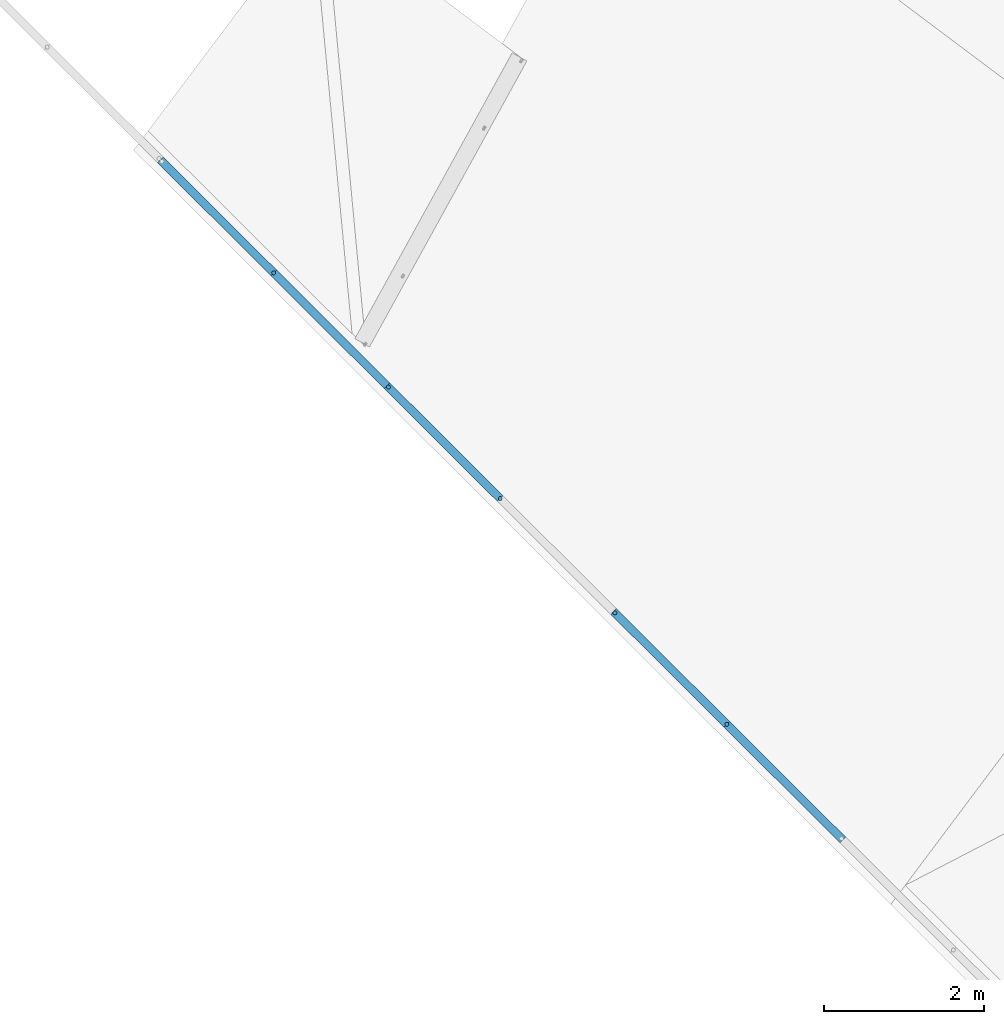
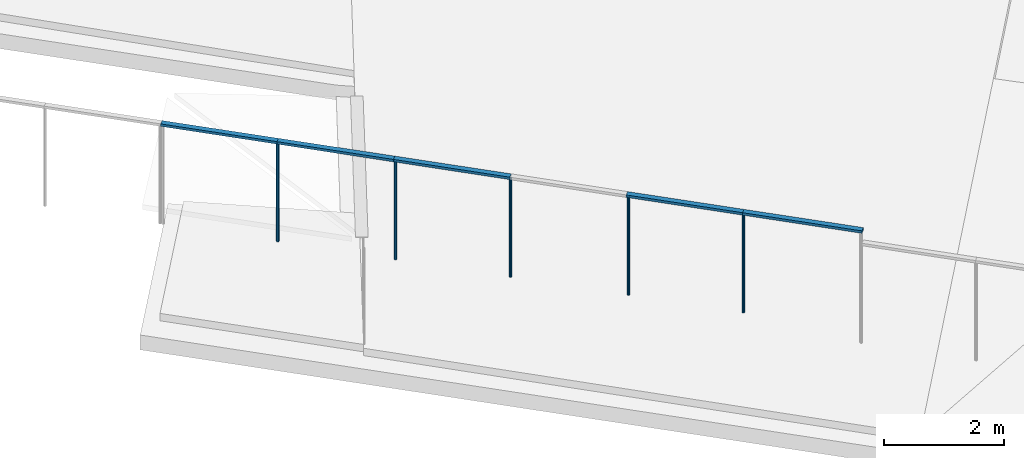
# One storey, part 7 of 33: 12 members, 3 elements without a shape of their own.
"""IFC2X3 building model written with IfcOpenShell, lengths in metres."""

from ifc_helpers import new_model, entity, si_unit, converted_unit, derived_unit, direction, frame, frame_2d, origin, origin_2d_with_axis, place, context, subcontext, project, spatial, rectangle, circle, extrude, source, transform, mapped, material, type_object, type_shapes, element, aggregate, save


model = new_model("IFC2X3")

# Units and contexts
model_context = context("Model", 3, precision=1e-05, world=origin(), true_north=direction((6.123031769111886e-17, 1.0)))
body_context = subcontext(model_context, "Body", "Model", "MODEL_VIEW")
ifc_project = project(units=[si_unit("LENGTHUNIT", "METRE"), si_unit("AREAUNIT", "SQUARE_METRE"), si_unit("VOLUMEUNIT", "CUBIC_METRE"), converted_unit("PLANEANGLEUNIT", "DEGREE", entity("IfcRatioMeasure", 0.017453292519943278), si_unit("PLANEANGLEUNIT", "RADIAN"), dimensions=[0, 0, 0, 0, 0, 0, 0]), si_unit("MASSUNIT", "GRAM", prefix="KILO"), derived_unit("MASSDENSITYUNIT", [(si_unit("MASSUNIT", "GRAM", prefix="KILO"), 1), (si_unit("LENGTHUNIT", "METRE"), -3)]), derived_unit("IONCONCENTRATIONUNIT", [(si_unit("MASSUNIT", "GRAM", prefix="KILO"), 1), (si_unit("LENGTHUNIT", "METRE"), -3)]), derived_unit("MOMENTOFINERTIAUNIT", [(si_unit("LENGTHUNIT", "METRE"), 4)]), si_unit("TIMEUNIT", "SECOND"), si_unit("FREQUENCYUNIT", "HERTZ"), si_unit("THERMODYNAMICTEMPERATUREUNIT", "DEGREE_CELSIUS"), derived_unit("THERMALTRANSMITTANCEUNIT", [(si_unit("MASSUNIT", "GRAM", prefix="KILO"), 1), (si_unit("THERMODYNAMICTEMPERATUREUNIT", "KELVIN"), -1), (si_unit("TIMEUNIT", "SECOND"), -3)]), derived_unit("THERMALCONDUCTANCEUNIT", [(si_unit("MASSUNIT", "GRAM", prefix="KILO"), 1), (si_unit("THERMODYNAMICTEMPERATUREUNIT", "KELVIN"), -1), (si_unit("TIMEUNIT", "SECOND"), -3), (si_unit("LENGTHUNIT", "METRE"), 1)]), derived_unit("VOLUMETRICFLOWRATEUNIT", [(si_unit("LENGTHUNIT", "METRE"), 3), (si_unit("TIMEUNIT", "SECOND"), -1)]), derived_unit("MASSFLOWRATEUNIT", [(si_unit("MASSUNIT", "GRAM", prefix="KILO"), 1), (si_unit("TIMEUNIT", "SECOND"), -1)]), derived_unit("ROTATIONALFREQUENCYUNIT", [(si_unit("TIMEUNIT", "SECOND"), -1)]), si_unit("ELECTRICCURRENTUNIT", "AMPERE"), si_unit("ELECTRICVOLTAGEUNIT", "VOLT"), si_unit("POWERUNIT", "WATT"), si_unit("FORCEUNIT", "NEWTON", prefix="KILO"), si_unit("ILLUMINANCEUNIT", "LUX"), si_unit("LUMINOUSFLUXUNIT", "LUMEN"), si_unit("LUMINOUSINTENSITYUNIT", "CANDELA"), derived_unit("USERDEFINED", [(si_unit("MASSUNIT", "GRAM", prefix="KILO"), -1), (si_unit("LENGTHUNIT", "METRE"), -2), (si_unit("TIMEUNIT", "SECOND"), 3), (si_unit("LUMINOUSFLUXUNIT", "LUMEN"), 1)]), derived_unit("USERDEFINED", [(si_unit("MASSUNIT", "GRAM", prefix="KILO"), 1), (si_unit("TIMEUNIT", "SECOND"), -3), (si_unit("LENGTHUNIT", "METRE"), 3), (si_unit("ELECTRICCURRENTUNIT", "AMPERE"), -2)]), derived_unit("SOUNDPOWERUNIT", [(si_unit("MASSUNIT", "GRAM", prefix="KILO"), 1), (si_unit("TIMEUNIT", "SECOND"), -3), (si_unit("LENGTHUNIT", "METRE"), 2)]), derived_unit("SOUNDPRESSUREUNIT", [(si_unit("MASSUNIT", "GRAM", prefix="KILO"), 1), (si_unit("LENGTHUNIT", "METRE"), -1), (si_unit("TIMEUNIT", "SECOND"), -2)]), derived_unit("LINEARVELOCITYUNIT", [(si_unit("LENGTHUNIT", "METRE"), 1), (si_unit("TIMEUNIT", "SECOND"), -1)]), si_unit("PRESSUREUNIT", "PASCAL"), derived_unit("USERDEFINED", [(si_unit("MASSUNIT", "GRAM", prefix="KILO"), 1), (si_unit("LENGTHUNIT", "METRE"), -2), (si_unit("TIMEUNIT", "SECOND"), -2)]), derived_unit("LINEARFORCEUNIT", [(si_unit("MASSUNIT", "GRAM", prefix="KILO"), 1), (si_unit("TIMEUNIT", "SECOND"), -2)]), derived_unit("PLANARFORCEUNIT", [(si_unit("MASSUNIT", "GRAM", prefix="KILO"), 1), (si_unit("LENGTHUNIT", "METRE"), -1), (si_unit("TIMEUNIT", "SECOND"), -2)]), derived_unit("SPECIFICHEATCAPACITYUNIT", [(si_unit("THERMODYNAMICTEMPERATUREUNIT", "KELVIN"), -1), (si_unit("LENGTHUNIT", "METRE"), 2), (si_unit("TIMEUNIT", "SECOND"), -2)]), derived_unit("HEATINGVALUEUNIT", [(si_unit("LENGTHUNIT", "METRE"), 2), (si_unit("TIMEUNIT", "SECOND"), -2)]), derived_unit("VAPORPERMEABILITYUNIT", [(si_unit("LENGTHUNIT", "METRE"), -1), (si_unit("TIMEUNIT", "SECOND"), 1)]), derived_unit("DYNAMICVISCOSITYUNIT", [(si_unit("MASSUNIT", "GRAM", prefix="KILO"), 1), (si_unit("TIMEUNIT", "SECOND"), -1), (si_unit("LENGTHUNIT", "METRE"), -1)]), derived_unit("THERMALEXPANSIONCOEFFICIENTUNIT", [(si_unit("THERMODYNAMICTEMPERATUREUNIT", "KELVIN"), -1)]), derived_unit("MODULUSOFELASTICITYUNIT", [(si_unit("MASSUNIT", "GRAM", prefix="KILO"), 1), (si_unit("LENGTHUNIT", "METRE"), -1), (si_unit("TIMEUNIT", "SECOND"), -2)]), derived_unit("ISOTHERMALMOISTURECAPACITYUNIT", [(si_unit("LENGTHUNIT", "METRE"), 3), (si_unit("MASSUNIT", "GRAM", prefix="KILO"), -1)]), derived_unit("MOISTUREDIFFUSIVITYUNIT", [(si_unit("TIMEUNIT", "SECOND"), -1), (si_unit("LENGTHUNIT", "METRE"), 2)])], contexts=[model_context])

# Site, building, storey
site_placement = place(None, origin())
site = spatial("IfcSite", under=ifc_project, at=site_placement, Name="Superficie", CompositionType="ELEMENT")
building_placement = place(site_placement, frame((0.0, 0.0, 235.0), z_axis=(0.0, 0.0, 1.0), x_axis=(-0.7996477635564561, 0.6004693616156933, 0.0)))
building = spatial("IfcBuilding", under=site, at=building_placement, CompositionType="ELEMENT")
storey_placement = place(building_placement, origin())
storey = spatial("IfcBuildingStorey", under=building, at=storey_placement, Name="P0- Escola", CompositionType="ELEMENT", Elevation=0.0)

# Curtain wall, member
curtain_wall_type = type_object("IfcCurtainWallType", Name="Muro cortina:SER EXT- Tanca exterior", PredefinedType="NOTDEFINED")
curtain_wall_1_placement = place(storey_placement, origin())
curtain_wall_1 = element("IfcCurtainWall", 1, at=curtain_wall_1_placement, inside=storey, type_object=curtain_wall_type, Name="Muro cortina:SER EXT- Tanca exterior", ObjectType="Muro cortina:SER EXT- Tanca exterior")
ifc_material_1 = material(Name="Acero inoxidable")
member_type_1 = type_object("IfcMemberType", Name="Montante circular:Perfil Tanca exterior", PredefinedType="MULLION", material=ifc_material_1)
shared_shape_1 = source(origin(), body_context, "Body", "SweptSolid", [
    extrude(circle(Radius=0.025, at=frame_2d((-2.1149748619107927e-18, -4.0388614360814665e-17), x_axis=(1.0, 0.0))), frame((0.0, 0.0, -2.0), z_axis=(0.0, 0.0, 1.0), x_axis=(-1.0, 0.0, 0.0)), (0.0, 0.0, 1.0), 1.9999999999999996),
])
type_shapes(member_type_1, [shared_shape_1])
member_1_placement = place(curtain_wall_1_placement, frame((21.088864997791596, -5.492554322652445, 1.72), z_axis=(0.0, 0.0, -1.0), x_axis=(0.9902804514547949, -0.13908496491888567, 0.0)))
member_1 = element("IfcMember", 2, at=member_1_placement, type_object=member_type_1, material=ifc_material_1, Name="Montante circular:Perfil Tanca exterior", ObjectType="Montante circular:Perfil Tanca exterior", context=body_context, shape_type="MappedRepresentation", body=[
    mapped(shared_shape_1, transform((0.0, 0.0, 0.0), scale=1.0)),
])

curtain_wall_2_placement = place(storey_placement, origin())
curtain_wall_2 = element("IfcCurtainWall", 3, at=curtain_wall_2_placement, inside=storey, type_object=curtain_wall_type, Name="Muro cortina:SER EXT- Tanca exterior", ObjectType="Muro cortina:SER EXT- Tanca exterior")
member_2_placement = place(curtain_wall_2_placement, frame((25.049986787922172, -6.048894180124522, 1.72), z_axis=(0.0, 0.0, -1.0), x_axis=(0.9902804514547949, -0.13908496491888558, 0.0)))
member_2 = element("IfcMember", 4, at=member_2_placement, type_object=member_type_1, material=ifc_material_1, Name="Montante circular:Perfil Tanca exterior", ObjectType="Montante circular:Perfil Tanca exterior", context=body_context, shape_type="MappedRepresentation", body=[
    mapped(shared_shape_1, transform((0.0, 0.0, 0.0), scale=1.0)),
])

curtain_wall_3_placement = place(storey_placement, origin())
curtain_wall_3 = element("IfcCurtainWall", 5, at=curtain_wall_3_placement, inside=storey, type_object=curtain_wall_type, Name="Muro cortina:SER EXT- Tanca exterior", ObjectType="Muro cortina:SER EXT- Tanca exterior")
member_3_placement = place(curtain_wall_3_placement, frame((29.01110857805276, -6.605234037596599, 1.72), z_axis=(0.0, 0.0, -1.0), x_axis=(0.9902804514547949, -0.1390849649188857, 0.0)))
member_3 = element("IfcMember", 6, at=member_3_placement, type_object=member_type_1, material=ifc_material_1, Name="Montante circular:Perfil Tanca exterior", ObjectType="Montante circular:Perfil Tanca exterior", context=body_context, shape_type="MappedRepresentation", body=[
    mapped(shared_shape_1, transform((0.0, 0.0, 0.0), scale=1.0)),
])

# Member
member_type_2 = type_object("IfcMemberType", Name="Montante circular:Perfil Tanca exterior", PredefinedType="MULLION", material=ifc_material_1)
shared_shape_2 = source(origin(), body_context, "Body", "SweptSolid", [
    extrude(circle(Radius=0.025, at=frame_2d((-1.304992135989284e-31, 4.038861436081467e-17), x_axis=(1.0, 0.0))), frame((-0.025, 0.0, -2.0)), (0.0, 0.0, 1.0), 1.9999999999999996),
])
type_shapes(member_type_2, [shared_shape_2])
member_4_placement = place(curtain_wall_2_placement, frame((23.01991187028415, -5.763770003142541, 3.7199999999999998), z_axis=(0.0, 0.0, 1.0), x_axis=(-0.9902804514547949, 0.13908496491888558, 0.0)))
member_4 = element("IfcMember", 7, at=member_4_placement, type_object=member_type_2, material=ifc_material_1, Name="Montante circular:Perfil Tanca exterior", ObjectType="Montante circular:Perfil Tanca exterior", context=body_context, shape_type="MappedRepresentation", body=[
    mapped(shared_shape_2, transform((0.0, 0.0, 0.0), scale=1.0)),
])

member_5_placement = place(curtain_wall_3_placement, frame((26.98103366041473, -6.320109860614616, 3.7199999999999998), z_axis=(0.0, 0.0, 1.0), x_axis=(-0.9902804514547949, 0.1390849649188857, 0.0)))
member_5 = element("IfcMember", 8, at=member_5_placement, type_object=member_type_2, material=ifc_material_1, Name="Montante circular:Perfil Tanca exterior", ObjectType="Montante circular:Perfil Tanca exterior", context=body_context, shape_type="MappedRepresentation", body=[
    mapped(shared_shape_2, transform((0.0, 0.0, 0.0), scale=1.0)),
])

member_type_3 = type_object("IfcMemberType", Name="Montante circular:Perfil Tanca exterior", PredefinedType="MULLION", material=ifc_material_1)
shared_shape_3 = source(origin(), body_context, "Body", "SweptSolid", [
    extrude(circle(Radius=0.025, at=frame_2d((1.3661718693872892e-31, -4.46185640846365e-17), x_axis=(1.0, 0.0))), frame((-0.025, 0.0, -2.0), z_axis=(0.0, 0.0, 1.0), x_axis=(-1.0, 0.0, 0.0)), (0.0, 0.0, 1.0), 1.9999999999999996),
])
type_shapes(member_type_3, [shared_shape_3])
member_6_placement = place(curtain_wall_1_placement, frame((23.069425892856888, -5.770724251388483, 1.72), z_axis=(0.0, 0.0, -1.0), x_axis=(0.9902804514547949, -0.13908496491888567, 0.0)))
member_6 = element("IfcMember", 9, at=member_6_placement, type_object=member_type_3, material=ifc_material_1, Name="Montante circular:Perfil Tanca exterior", ObjectType="Montante circular:Perfil Tanca exterior", context=body_context, shape_type="MappedRepresentation", body=[
    mapped(shared_shape_3, transform((0.0, 0.0, 0.0), scale=1.0)),
])

member_7_placement = place(curtain_wall_2_placement, frame((27.030547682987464, -6.3270641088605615, 1.72), z_axis=(0.0, 0.0, -1.0), x_axis=(0.9902804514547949, -0.13908496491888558, 0.0)))
member_7 = element("IfcMember", 10, at=member_7_placement, type_object=member_type_3, material=ifc_material_1, Name="Montante circular:Perfil Tanca exterior", ObjectType="Montante circular:Perfil Tanca exterior", context=body_context, shape_type="MappedRepresentation", body=[
    mapped(shared_shape_3, transform((0.0, 0.0, 0.0), scale=1.0)),
])

ifc_material_2 = material(Name="_Formigó- Solera- T1- STR")
member_type_4 = type_object("IfcMemberType", Name="Montante rectangular:Montante rectangular 100x50", PredefinedType="MULLION", material=ifc_material_2)
shared_shape_4 = source(origin(), body_context, "Body", "SweptSolid", [
    extrude(rectangle(XDim=0.1, YDim=0.05000000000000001, at=origin_2d_with_axis()), frame((-0.025000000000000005, 0.0, -1.999999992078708), z_axis=(0.0, 0.0, 1.0), x_axis=(0.0, -1.0, 0.0)), (0.0, 0.0, 1.0), 1.9999999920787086),
])
type_shapes(member_type_4, [shared_shape_4])
member_8_placement = place(curtain_wall_1_placement, frame((23.069425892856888, -5.770724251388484, 3.7699999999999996), z_axis=(0.9902804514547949, -0.13908496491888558, 0.0), x_axis=(0.0, 0.0, 1.0)))
member_8 = element("IfcMember", 11, at=member_8_placement, type_object=member_type_4, material=ifc_material_2, Name="Montante rectangular:Montante rectangular 100x50", ObjectType="Montante rectangular:Montante rectangular 100x50", context=body_context, shape_type="MappedRepresentation", body=[
    mapped(shared_shape_4, transform((0.0, 0.0, 0.0), scale=1.0)),
])

member_9_placement = place(curtain_wall_2_placement, frame((27.030547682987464, -6.3270641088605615, 3.7699999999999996), z_axis=(0.9902804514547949, -0.13908496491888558, 0.0), x_axis=(0.0, 0.0, 1.0)))
member_9 = element("IfcMember", 12, at=member_9_placement, type_object=member_type_4, material=ifc_material_2, Name="Montante rectangular:Montante rectangular 100x50", ObjectType="Montante rectangular:Montante rectangular 100x50", context=body_context, shape_type="MappedRepresentation", body=[
    mapped(shared_shape_4, transform((0.0, 0.0, 0.0), scale=1.0)),
])

aggregate(curtain_wall_2, [member_4, member_2, member_7, member_9])

member_type_5 = type_object("IfcMemberType", Name="Montante rectangular:Montante rectangular 100x50", PredefinedType="MULLION", material=ifc_material_2)
shared_shape_5 = source(origin(), body_context, "Body", "SweptSolid", [
    extrude(rectangle(XDim=0.1, YDim=0.05000000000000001, at=origin_2d_with_axis()), frame((-0.025000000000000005, 0.0, -2.0499999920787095), z_axis=(0.0, 0.0, 1.0), x_axis=(0.0, -1.0, 0.0)), (0.0, 0.0, 1.0), 2.04999999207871),
])
type_shapes(member_type_5, [shared_shape_5])
member_10_placement = place(curtain_wall_1_placement, frame((21.088864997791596, -5.492554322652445, 3.7699999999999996), z_axis=(0.9902804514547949, -0.1390849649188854, 0.0), x_axis=(0.0, 0.0, 1.0)))
member_10 = element("IfcMember", 13, at=member_10_placement, type_object=member_type_5, material=ifc_material_2, Name="Montante rectangular:Montante rectangular 100x50", ObjectType="Montante rectangular:Montante rectangular 100x50", context=body_context, shape_type="MappedRepresentation", body=[
    mapped(shared_shape_5, transform((0.0, 0.0, 0.0), scale=1.0)),
])

aggregate(curtain_wall_1, [member_1, member_6, member_8, member_10])

member_11_placement = place(curtain_wall_3_placement, frame((29.011108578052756, -6.605234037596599, 3.7699999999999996), z_axis=(0.9902804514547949, -0.13908496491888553, 0.0), x_axis=(0.0, 0.0, 1.0)))
member_11 = element("IfcMember", 14, at=member_11_placement, type_object=member_type_5, material=ifc_material_2, Name="Montante rectangular:Montante rectangular 100x50", ObjectType="Montante rectangular:Montante rectangular 100x50", context=body_context, shape_type="MappedRepresentation", body=[
    mapped(shared_shape_5, transform((0.0, 0.0, 0.0), scale=1.0)),
])

member_type_6 = type_object("IfcMemberType", Name="Montante rectangular:Montante rectangular 100x50", PredefinedType="MULLION", material=ifc_material_2)
shared_shape_6 = source(origin(), body_context, "Body", "SweptSolid", [
    extrude(rectangle(XDim=0.1, YDim=0.05000000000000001, at=origin_2d_with_axis()), frame((-0.025000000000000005, 0.0, -1.999999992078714), z_axis=(0.0, 0.0, 1.0), x_axis=(0.0, -1.0, 0.0)), (0.0, 0.0, 1.0), 1.9999999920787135),
])
type_shapes(member_type_6, [shared_shape_6])
member_12_placement = place(curtain_wall_3_placement, frame((30.991669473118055, -6.88340396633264, 3.7699999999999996), z_axis=(0.9902804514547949, -0.1390849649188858, 0.0), x_axis=(0.0, 0.0, 1.0)))
member_12 = element("IfcMember", 15, at=member_12_placement, type_object=member_type_6, material=ifc_material_2, Name="Montante rectangular:Montante rectangular 100x50", ObjectType="Montante rectangular:Montante rectangular 100x50", context=body_context, shape_type="MappedRepresentation", body=[
    mapped(shared_shape_6, transform((0.0, 0.0, 0.0), scale=1.0)),
])

aggregate(curtain_wall_3, [member_5, member_3, member_12, member_11])

save(model, "model.ifc")
